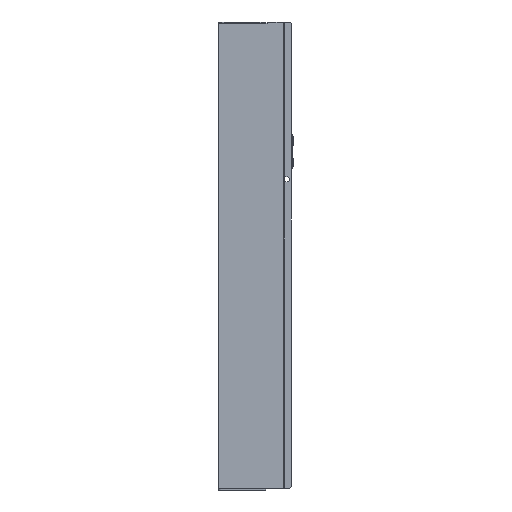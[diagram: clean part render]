
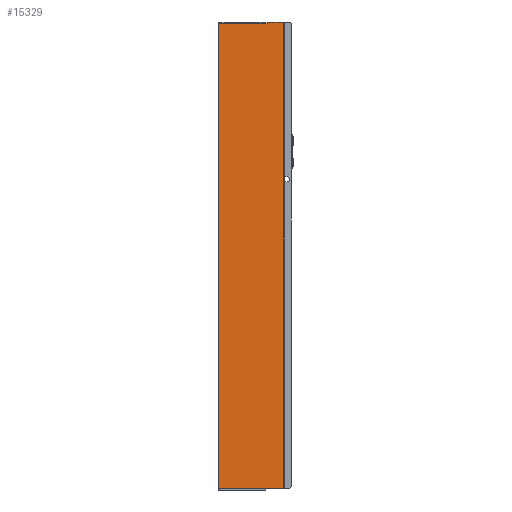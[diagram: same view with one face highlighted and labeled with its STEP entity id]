
A CAD part, left-side view. The second image highlights one B-rep face of the part: STEP entity #15329.
In plain terms, the highlighted planar face has unit normal (-1, 0, 0).
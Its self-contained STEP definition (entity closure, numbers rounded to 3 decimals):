
#30 = VERTEX_POINT ( 'NONE', #938 ) ;
#126 = EDGE_CURVE ( 'NONE', #14634, #1410, #9058, .T. ) ;
#901 = DIRECTION ( 'NONE',  ( 0., 0., -1. ) ) ;
#902 = CARTESIAN_POINT ( 'NONE',  ( 0., 0., -269. ) ) ;
#938 = CARTESIAN_POINT ( 'NONE',  ( 0., 75., 268.8 ) ) ;
#1052 = VECTOR ( 'NONE', #901, 1000. ) ;
#1253 = CARTESIAN_POINT ( 'NONE',  ( 0., 18.7, 268.7 ) ) ;
#1295 = CARTESIAN_POINT ( 'NONE',  ( 0., 18.7, 268.5 ) ) ;
#1306 = CARTESIAN_POINT ( 'NONE',  ( 0., 18.3, 269.8 ) ) ;
#1312 = AXIS2_PLACEMENT_3D ( 'NONE', #1306, #10224, #2580 ) ;
#1403 = EDGE_CURVE ( 'NONE', #30, #12246, #7015, .T. ) ;
#1410 = VERTEX_POINT ( 'NONE', #11371 ) ;
#1544 = DIRECTION ( 'NONE',  ( 0., 0., -1. ) ) ;
#1926 = ORIENTED_EDGE ( 'NONE', *, *, #126, .T. ) ;
#2102 = VERTEX_POINT ( 'NONE', #7589 ) ;
#2212 = CIRCLE ( 'NONE', #1312, 0.2 ) ;
#2271 = VECTOR ( 'NONE', #7058, 1000. ) ;
#2345 = CARTESIAN_POINT ( 'NONE',  ( 0., 20.5, 268.8 ) ) ;
#2380 = ORIENTED_EDGE ( 'NONE', *, *, #14715, .T. ) ;
#2383 = EDGE_CURVE ( 'NONE', #2102, #8960, #2212, .T. ) ;
#2441 = VECTOR ( 'NONE', #1544, 1000. ) ;
#2525 = DIRECTION ( 'NONE',  ( 0., 0., -1. ) ) ;
#2580 = DIRECTION ( 'NONE',  ( 0., 0., -1. ) ) ;
#3379 = LINE ( 'NONE', #2345, #15345 ) ;
#3861 = EDGE_CURVE ( 'NONE', #12246, #14634, #12014, .T. ) ;
#4430 = CARTESIAN_POINT ( 'NONE',  ( 0., 75., -269. ) ) ;
#5275 = CARTESIAN_POINT ( 'NONE',  ( 0., 0., 270. ) ) ;
#5386 = CARTESIAN_POINT ( 'NONE',  ( 0., 20.5, 268.7 ) ) ;
#5684 = EDGE_CURVE ( 'NONE', #2102, #10159, #5821, .T. ) ;
#5712 = VERTEX_POINT ( 'NONE', #5386 ) ;
#5821 = LINE ( 'NONE', #15543, #2441 ) ;
#5938 = CARTESIAN_POINT ( 'NONE',  ( 0., 0., 268.8 ) ) ;
#5943 = VERTEX_POINT ( 'NONE', #12156 ) ;
#6422 = DIRECTION ( 'NONE',  ( 1., 0., 0. ) ) ;
#6476 = ORIENTED_EDGE ( 'NONE', *, *, #1403, .T. ) ;
#6571 = DIRECTION ( 'NONE',  ( 0., 0., -1. ) ) ;
#7015 = LINE ( 'NONE', #11258, #1052 ) ;
#7058 = DIRECTION ( 'NONE',  ( 0., 0., 1. ) ) ;
#7116 = VERTEX_POINT ( 'NONE', #14967 ) ;
#7143 = VECTOR ( 'NONE', #8896, 1000. ) ;
#7185 = CARTESIAN_POINT ( 'NONE',  ( 0., 18.5, 268.7 ) ) ;
#7216 = DIRECTION ( 'NONE',  ( 0., -1., 0. ) ) ;
#7576 = VECTOR ( 'NONE', #7216, 1000. ) ;
#7589 = CARTESIAN_POINT ( 'NONE',  ( 0., 18.5, 269.8 ) ) ;
#7610 = CARTESIAN_POINT ( 'NONE',  ( 0., 20.5, 268.5 ) ) ;
#7874 = AXIS2_PLACEMENT_3D ( 'NONE', #14053, #6422, #15338 ) ;
#8206 = CIRCLE ( 'NONE', #12173, 0.2 ) ;
#8353 = CARTESIAN_POINT ( 'NONE',  ( 0., 0., 270. ) ) ;
#8375 = LINE ( 'NONE', #5938, #7576 ) ;
#8661 = VECTOR ( 'NONE', #10082, 1000. ) ;
#8896 = DIRECTION ( 'NONE',  ( 0., 1., 0. ) ) ;
#8960 = VERTEX_POINT ( 'NONE', #14832 ) ;
#9025 = EDGE_CURVE ( 'NONE', #14698, #10159, #8206, .T. ) ;
#9058 = LINE ( 'NONE', #8353, #2271 ) ;
#9489 = ORIENTED_EDGE ( 'NONE', *, *, #3861, .T. ) ;
#9993 = DIRECTION ( 'NONE',  ( 0., 0., -1. ) ) ;
#10082 = DIRECTION ( 'NONE',  ( 0., -1., 0. ) ) ;
#10159 = VERTEX_POINT ( 'NONE', #7185 ) ;
#10165 = DIRECTION ( 'NONE',  ( -1., 0., 0. ) ) ;
#10224 = DIRECTION ( 'NONE',  ( 1., 0., 0. ) ) ;
#10369 = EDGE_LOOP ( 'NONE', ( #2380, #11447, #16141, #6476, #9489, #1926, #14450, #15885, #15253, #11351, #13469 ) ) ;
#10544 = LINE ( 'NONE', #7610, #7143 ) ;
#11258 = CARTESIAN_POINT ( 'NONE',  ( 0., 75., 270. ) ) ;
#11292 = CIRCLE ( 'NONE', #7874, 0.2 ) ;
#11351 = ORIENTED_EDGE ( 'NONE', *, *, #9025, .F. ) ;
#11371 = CARTESIAN_POINT ( 'NONE',  ( 0., 0., 270. ) ) ;
#11447 = ORIENTED_EDGE ( 'NONE', *, *, #16338, .F. ) ;
#11640 = CARTESIAN_POINT ( 'NONE',  ( 0., 0., 270. ) ) ;
#12014 = LINE ( 'NONE', #12570, #8661 ) ;
#12156 = CARTESIAN_POINT ( 'NONE',  ( 0., 20.5, 268.8 ) ) ;
#12173 = AXIS2_PLACEMENT_3D ( 'NONE', #1253, #10165, #2525 ) ;
#12246 = VERTEX_POINT ( 'NONE', #4430 ) ;
#12358 = EDGE_CURVE ( 'NONE', #30, #5943, #8375, .T. ) ;
#12570 = CARTESIAN_POINT ( 'NONE',  ( 0., 20.5, -269. ) ) ;
#12863 = DIRECTION ( 'NONE',  ( 0., -1., 0. ) ) ;
#13466 = VECTOR ( 'NONE', #12863, 1000. ) ;
#13469 = ORIENTED_EDGE ( 'NONE', *, *, #15873, .T. ) ;
#14053 = CARTESIAN_POINT ( 'NONE',  ( 0., 20.3, 268.7 ) ) ;
#14075 = AXIS2_PLACEMENT_3D ( 'NONE', #5275, #14200, #6571 ) ;
#14089 = PLANE ( 'NONE',  #14075 ) ;
#14200 = DIRECTION ( 'NONE',  ( -1., 0., 0. ) ) ;
#14297 = LINE ( 'NONE', #11640, #13466 ) ;
#14450 = ORIENTED_EDGE ( 'NONE', *, *, #14751, .F. ) ;
#14634 = VERTEX_POINT ( 'NONE', #902 ) ;
#14698 = VERTEX_POINT ( 'NONE', #1295 ) ;
#14715 = EDGE_CURVE ( 'NONE', #7116, #5712, #11292, .T. ) ;
#14751 = EDGE_CURVE ( 'NONE', #8960, #1410, #14297, .T. ) ;
#14832 = CARTESIAN_POINT ( 'NONE',  ( 0., 18.3, 270. ) ) ;
#14967 = CARTESIAN_POINT ( 'NONE',  ( 0., 20.3, 268.5 ) ) ;
#15253 = ORIENTED_EDGE ( 'NONE', *, *, #5684, .T. ) ;
#15329 = ADVANCED_FACE ( 'NONE', ( #16469 ), #14089, .T. ) ;
#15338 = DIRECTION ( 'NONE',  ( 0., 0., -1. ) ) ;
#15345 = VECTOR ( 'NONE', #9993, 1000. ) ;
#15543 = CARTESIAN_POINT ( 'NONE',  ( 0., 18.5, 270. ) ) ;
#15873 = EDGE_CURVE ( 'NONE', #14698, #7116, #10544, .T. ) ;
#15885 = ORIENTED_EDGE ( 'NONE', *, *, #2383, .F. ) ;
#16141 = ORIENTED_EDGE ( 'NONE', *, *, #12358, .F. ) ;
#16338 = EDGE_CURVE ( 'NONE', #5943, #5712, #3379, .T. ) ;
#16469 = FACE_OUTER_BOUND ( 'NONE', #10369, .T. ) ;
